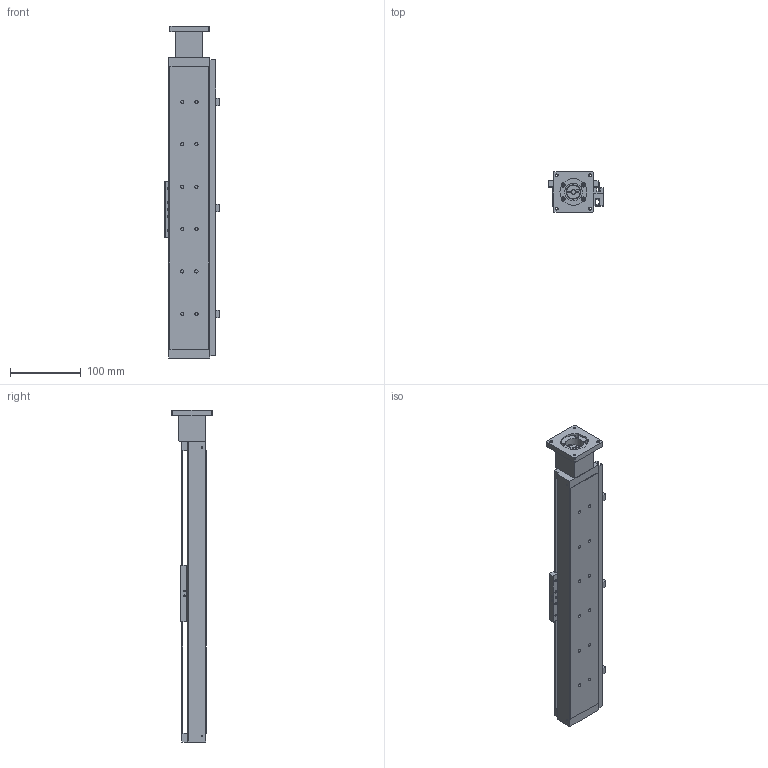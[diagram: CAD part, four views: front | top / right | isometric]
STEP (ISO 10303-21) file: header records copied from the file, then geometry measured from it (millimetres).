
FILE_DESCRIPTION((''),'2;1');
FILE_NAME('E:\uia actuator\UIA actuator 3d- 2009\Standard ball screw actuator\UIA058R7DC\UIA058R7DC3-STEP file\with motor mount\UIA058R7DC step file 2016\UIA058R7DC-300-R0803-M23-P13-C10-S.stp','2016-04-15T16:30:33',('h029'),(''),'Autodesk Inventor 11','Autodesk Inventor 11','');
FILE_SCHEMA(('AUTOMOTIVE_DESIGN { 1 0 10303 214 1 1 1 1 }'));
Length unit declared in the file: millimetre
Products named in the file (10): UIA058R7DC-300-R0803-M23-P13-C10-S; UIA058R7DC-300-BODY; UIA058R7DC-300-SENSOR RAIL; UIA058R7DC-CARRIAGE; UIA058R7DC SENSOR FLAG; 10-100 0110-M23 MotorMOUNT; SOH-20C; SOH-20C-3; SOH-20C-1; SOH-20C-2
Assembly tree (9 placements, depth 3):
  UIA058R7DC-300-R0803-M23-P13-C10-S
    UIA058R7DC-300-BODY
    UIA058R7DC-300-SENSOR RAIL
    UIA058R7DC-CARRIAGE
    UIA058R7DC SENSOR FLAG
    10-100 0110-M23 MotorMOUNT
    SOH-20C
      SOH-20C-3
      SOH-20C-1
      SOH-20C-2
Bounding box: 77.4 x 57 x 470 mm (x, y, z)
Volume: 433837 mm3; surface area: 216941.4 mm2
Topology: 11 solids, 11 shells, 344 faces, 931 edges, 614 vertices
Faces by surface type: plane 192, cylinder 100, cone 44, bspline 8
Full cylindrical faces by diameter (mm): 2.013 x4, 2.459 x8, 3 x8, 3.242 x12, 3.5 x6, 4 x2, 4.5 x12, 6 x4, 6.35 x1, 7.5 x12, 16 x2, 20 x3, 25 x1
Entity records: 10716 total; most frequent: CARTESIAN_POINT 2203, DIRECTION 1713, ORIENTED_EDGE 1554, EDGE_CURVE 777, AXIS2_PLACEMENT_3D 613, VERTEX_POINT 571, EDGE_LOOP 563, VECTOR 487
